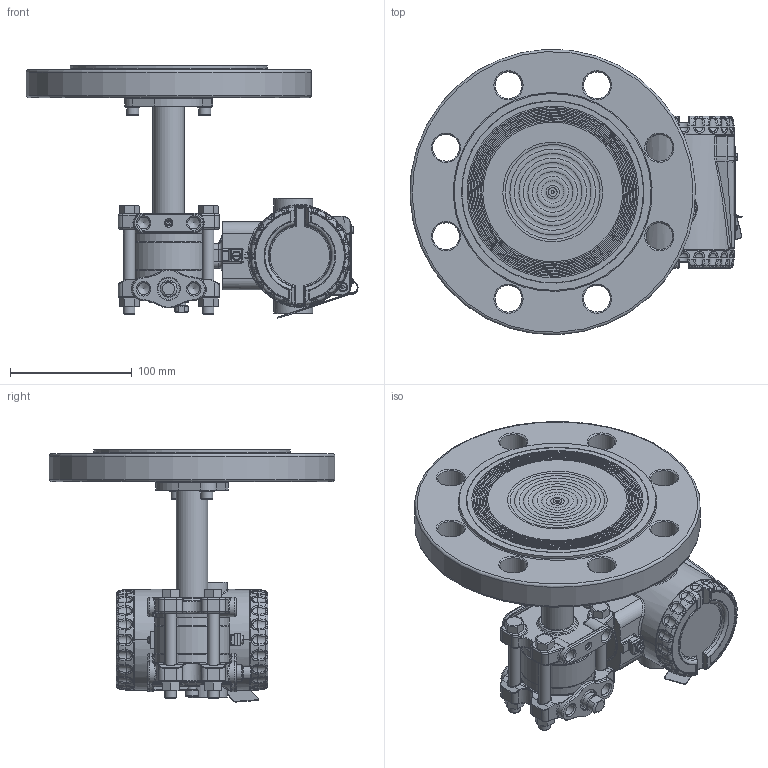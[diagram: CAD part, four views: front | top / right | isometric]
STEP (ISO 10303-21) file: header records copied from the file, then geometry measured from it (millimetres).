
FILE_DESCRIPTION(/* description */ (''),/* implementation_level */ '2;1');
FILE_NAME(/* name */ 'F:\Area\Desenvolvimento_2\Projects\Sensor\projetos\LD400-3d\dimensionais 3D clientes\LD400L\LD400L DN100 PN40 RF ref 1-4NPT purga acima.stp',/* time_stamp */ '2023-02-23T18:01:31-03:00',/* author */ ('inventor02'),/* organization */ (''),/* preprocessor_version */ 'ST-DEVELOPER v17',/* originating_system */ 'Autodesk Inventor 2019',/* authorisation */ '');
FILE_SCHEMA (('CONFIG_CONTROL_DESIGN'));
Products named in the file (38): LD30XL DN100 PN40 RF ref 1-4NPT purga acima; 204-0301-L-DN100 PN40 RF purga acima; nivel fx3 com baixa diferencial 1-4NPT purga acima; involucro fx0-3 apos a usinagem final; flange diferencial std purga; 101-C-7484-01 flange selo nivel VR; 201-A-0504-tubo união teste 1; bujao 1-4NPT; Sangria; Porca 3-8 x 16 UNC; Paraf. 3-8 x 16 UNC; adaptação tubo x flanges 1-1-2 a 4pol; 101-B-0161-anel cortado do tubo - teste1; 101-B-0162-flange fixação tubo; ANSI B18.3.1M - M6x1 x 16; DIN 127 - A 6; 101-C-0142-09; Carcaça 400 com tampas e plaqueta sem letras; 101-D-0845-05 carcaça LD400 sem letras; 101-B-3614-03-tampa 400 sem letras; Tampa visor 400 montada sem letras; 101-B-3612-05 tampa visor 400 sem letras; 101-A-6107; oring 2034; 00034775-0; WHW_250; DIN 915 - M6 x 10; Chapa aterramento externo; 201-A-1771-02 inserto terra recartilhado; AS 1969 - ST4,2; ISO 1207 - M4 x 8; ANSI B18.3.1M - M4x0,7 x 8; Subconjunto plaqueta 400; plaqueta 400 em branco; Parafuso da Plaqueta; Rebite da Plaqueta; 096-A-0169-03; 101-A-0502-01
Assembly tree (47 placements, depth 4):
  LD30XL DN100 PN40 RF ref 1-4NPT purga acima
    204-0301-L-DN100 PN40 RF purga acima
      nivel fx3 com baixa diferencial 1-4NPT purga acima
        involucro fx0-3 apos a usinagem final
        flange diferencial std purga
        101-C-7484-01 flange selo nivel VR
        201-A-0504-tubo união teste 1
        DIN 915 - M6 x 10
        bujao 1-4NPT
        Sangria
        Porca 3-8 x 16 UNC  x4
        Paraf. 3-8 x 16 UNC  x4
      adaptação tubo x flanges 1-1-2 a 4pol
        101-B-0161-anel cortado do tubo - teste1
        101-B-0162-flange fixação tubo
        ANSI B18.3.1M - M6x1 x 16  x2
        DIN 127 - A 6  x2
      101-C-0142-09
    Carcaça 400 com tampas e plaqueta sem letras
      101-D-0845-05 carcaça LD400 sem letras
      101-B-3614-03-tampa 400 sem letras
      Tampa visor 400 montada sem letras
        101-B-3612-05 tampa visor 400 sem letras
        101-A-6107
        oring 2034
        00034775-0
        WHW_250
      DIN 915 - M6 x 10
      Chapa aterramento externo
      201-A-1771-02 inserto terra recartilhado
      AS 1969 - ST4,2
      ISO 1207 - M4 x 8
      ANSI B18.3.1M - M4x0,7 x 8  x2
      Subconjunto plaqueta 400
        plaqueta 400 em branco
        Parafuso da Plaqueta
        Rebite da Plaqueta
        096-A-0169-03
        101-A-0502-01
Bounding box: 273.14 x 234.78 x 207.42 mm (x, y, z)
Volume: 1610721.6 mm3; surface area: 371351.4 mm2
Topology: 41 solids, 41 shells, 2729 faces, 6626 edges, 3964 vertices
Faces by surface type: plane 707, cylinder 660, bspline 604, torus 458, cone 224, sphere 76
Full cylindrical faces by diameter (mm): 2 x4, 2.1 x1, 2.2 x1, 2.459 x3, 2.5 x1, 2.7 x1, 2.8 x1, 3 x4, 3.242 x3, 3.5 x1, 3.571 x1, 4 x5, 4.3 x2, 4.4 x1, 4.917 x4, 5 x1, 5.5 x3, 6 x6, 6.1 x2, 6.2 x1, 6.647 x1, 7 x5, 7.6 x2, 7.798 x4, 8 x1, 9.525 x4, 9.728 x6, 10 x2, 10.5 x8, 10.719 x2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
Entity records: 97417 total; most frequent: CARTESIAN_POINT 36875, ORIENTED_EDGE 12492, DIRECTION 12444, EDGE_CURVE 6246, AXIS2_PLACEMENT_3D 5312, VERTEX_POINT 3770, CIRCLE 3076, EDGE_LOOP 2758
